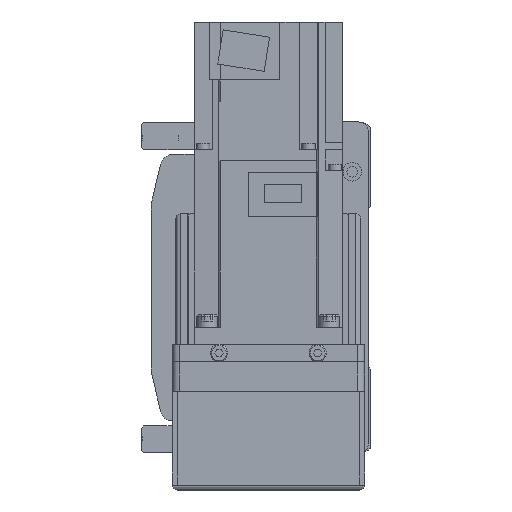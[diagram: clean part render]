
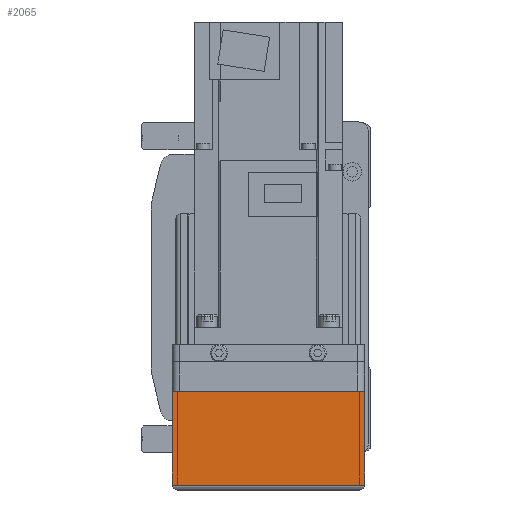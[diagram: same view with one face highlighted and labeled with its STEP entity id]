
A CAD part, left-side view. The second image highlights one B-rep face of the part: STEP entity #2065.
In plain terms, the highlighted planar face has unit normal (-1, 0, 0).
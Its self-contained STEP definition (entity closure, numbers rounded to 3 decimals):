
#2065 = ADVANCED_FACE( '', ( #4811 ), #4812, .F. );
#4811 = FACE_OUTER_BOUND( '', #8315, .T. );
#4812 = PLANE( '', #8316 );
#8315 = EDGE_LOOP( '', ( #14237, #14238, #14239, #14240 ) );
#8316 = AXIS2_PLACEMENT_3D( '', #14241, #14242, #14243 );
#14237 = ORIENTED_EDGE( '', *, *, #21851, .F. );
#14238 = ORIENTED_EDGE( '', *, *, #21758, .F. );
#14239 = ORIENTED_EDGE( '', *, *, #21290, .T. );
#14240 = ORIENTED_EDGE( '', *, *, #21852, .F. );
#14241 = CARTESIAN_POINT( '', ( -158., 36., 7. ) );
#14242 = DIRECTION( '', ( 1., 0., 0. ) );
#14243 = DIRECTION( '', ( 0., 0., -1. ) );
#21290 = EDGE_CURVE( '', #26035, #25159, #26039, .T. );
#21758 = EDGE_CURVE( '', #26035, #26729, #26730, .T. );
#21851 = EDGE_CURVE( '', #26729, #26874, #26875, .T. );
#21852 = EDGE_CURVE( '', #26874, #25159, #26876, .T. );
#25159 = VERTEX_POINT( '', #31369 );
#26035 = VERTEX_POINT( '', #32647 );
#26039 = LINE( '', #32652, #32653 );
#26729 = VERTEX_POINT( '', #33842 );
#26730 = LINE( '', #33843, #33844 );
#26874 = VERTEX_POINT( '', #34091 );
#26875 = LINE( '', #34092, #34093 );
#26876 = LINE( '', #34094, #34095 );
#31369 = CARTESIAN_POINT( '', ( -158., -39., -50. ) );
#32647 = CARTESIAN_POINT( '', ( -158., 39., -50. ) );
#32652 = CARTESIAN_POINT( '', ( -158., 40., -50. ) );
#32653 = VECTOR( '', #39119, 1000. );
#33842 = CARTESIAN_POINT( '', ( -158., 39., -12.1 ) );
#33843 = CARTESIAN_POINT( '', ( -158., 39., -50. ) );
#33844 = VECTOR( '', #39637, 1000. );
#34091 = CARTESIAN_POINT( '', ( -158., -39., -12.1 ) );
#34092 = CARTESIAN_POINT( '', ( -158., 50., -12.1 ) );
#34093 = VECTOR( '', #39734, 1000. );
#34094 = CARTESIAN_POINT( '', ( -158., -39., -12.1 ) );
#34095 = VECTOR( '', #39735, 1000. );
#39119 = DIRECTION( '', ( 0., -1., 0. ) );
#39637 = DIRECTION( '', ( 0., 0., 1. ) );
#39734 = DIRECTION( '', ( 0., -1., 0. ) );
#39735 = DIRECTION( '', ( 0., 0., -1. ) );
